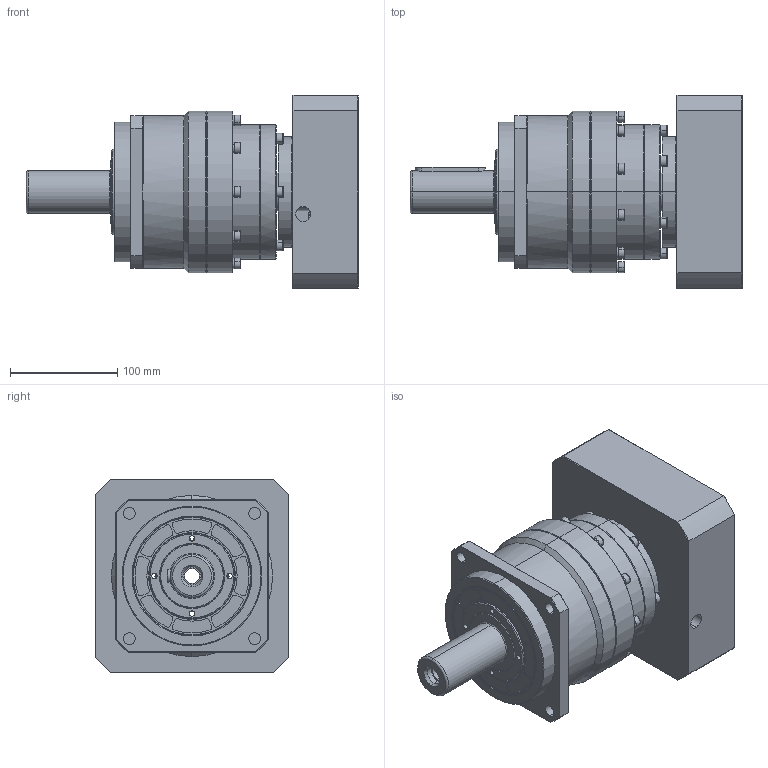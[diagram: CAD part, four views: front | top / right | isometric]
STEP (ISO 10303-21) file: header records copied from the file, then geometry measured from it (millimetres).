
FILE_DESCRIPTION (( 'STEP AP203' ), '1' );
FILE_NAME ('KS142-10X5-114.3-24-80-M12-200.STEP', '2020-08-12T01:50:47', ( '微软用户' ), ( '微软中国' ), 'SwSTEP 2.0', 'SolidWorks 2008', '' );
FILE_SCHEMA (( 'CONFIG_CONTROL_DESIGN' ));
Length unit declared in the file: millimetre
Products named in the file (1): KS142-10X5-114.3-24-80-M12-200
Bounding box: 309 x 180 x 180 mm (x, y, z)
Surface area: 275765.1 mm2 (no closed solid volume)
Topology: 0 solids, 58 shells, 688 faces, 2101 edges, 1420 vertices
Faces by surface type: plane 266, cylinder 264, cone 106, torus 52
Entity records: 23825 total; most frequent: CARTESIAN_POINT 4978, DIRECTION 4242, ORIENTED_EDGE 3409, EDGE_CURVE 2069, AXIS2_PLACEMENT_3D 1656, VERTEX_POINT 1420, CIRCLE 967, LINE 930
